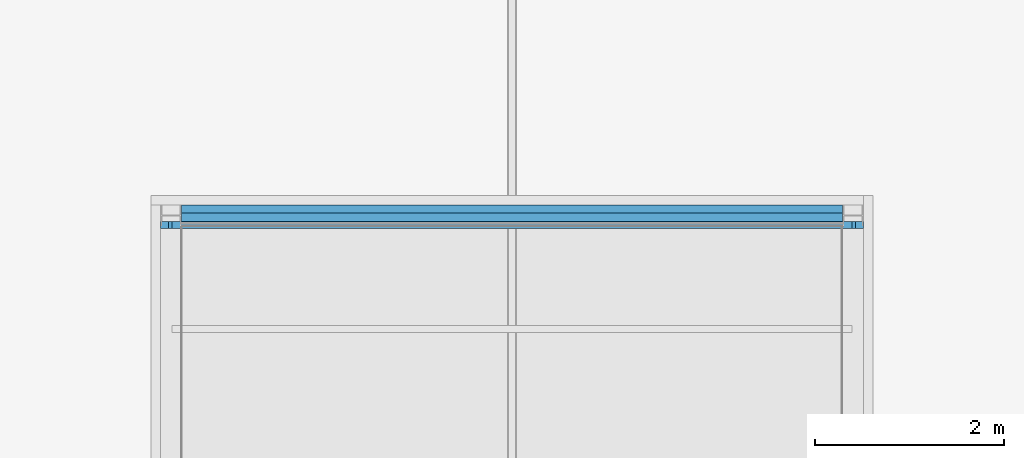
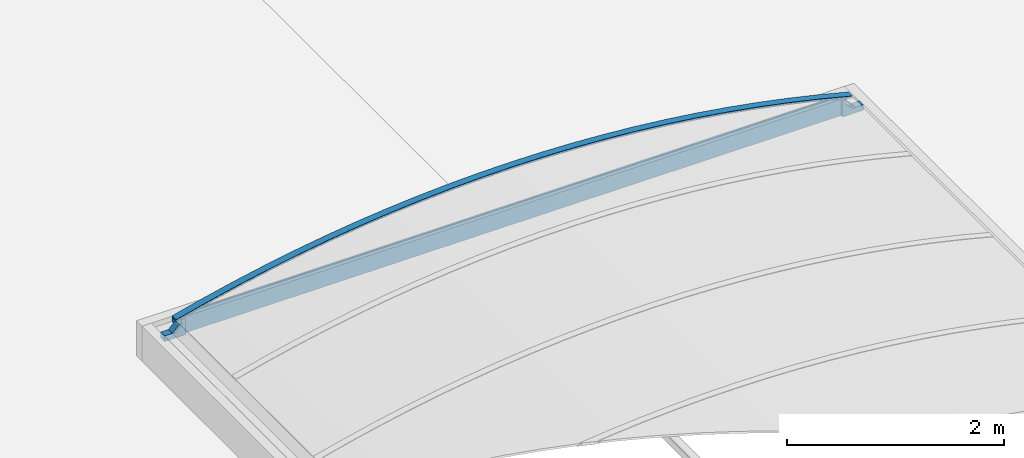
# One storey, part 58 of 81: 2 beams.
"""IFC2X3 building model written with IfcOpenShell, lengths in millimetres."""

from ifc_helpers import new_model, entity, si_unit, converted_unit, derived_unit, money_unit, direction, frame, origin_with_axes, place, context, subcontext, project, spatial, faceted_brep, material, material_list, type_object, element, save


model = new_model("IFC2X3")

# Units and contexts
model_context = context("Model", 3, precision=0.01, world=origin_with_axes(), true_north=direction((0.0, 1.0)))
body_context = subcontext(model_context, "Body", "Model", "MODEL_VIEW")
ifc_project = project(units=[si_unit("LENGTHUNIT", "METRE", prefix="MILLI"), si_unit("AREAUNIT", "SQUARE_METRE"), si_unit("VOLUMEUNIT", "CUBIC_METRE"), converted_unit("PLANEANGLEUNIT", "DEGREE", entity("IfcPlaneAngleMeasure", 0.0174532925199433), si_unit("PLANEANGLEUNIT", "RADIAN"), dimensions=[0, 0, 0, 0, 0, 0, 0]), money_unit("EUR"), converted_unit("TIMEUNIT", "Year", entity("IfcTimeMeasure", 31557600.0), si_unit("TIMEUNIT", "SECOND"), dimensions=[0, 0, 1, 0, 0, 0, 0]), si_unit("MASSUNIT", "GRAM", prefix="KILO"), si_unit("THERMODYNAMICTEMPERATUREUNIT", "DEGREE_CELSIUS"), si_unit("LUMINOUSINTENSITYUNIT", "LUMEN"), si_unit("ENERGYUNIT", "JOULE", prefix="MEGA"), derived_unit("THERMALCONDUCTANCEUNIT", [(si_unit("POWERUNIT", "WATT"), 1), (si_unit("LENGTHUNIT", "METRE"), -1), (si_unit("THERMODYNAMICTEMPERATUREUNIT", "KELVIN"), -1)]), derived_unit("SPECIFICHEATCAPACITYUNIT", [(si_unit("ENERGYUNIT", "JOULE"), 1), (si_unit("MASSUNIT", "GRAM", prefix="KILO"), -1), (si_unit("THERMODYNAMICTEMPERATUREUNIT", "KELVIN"), -1)]), derived_unit("MASSDENSITYUNIT", [(si_unit("MASSUNIT", "GRAM", prefix="KILO"), 1), (si_unit("VOLUMEUNIT", "CUBIC_METRE"), -1)])], contexts=[model_context])

# Site, building, storey
site_placement = place(None, origin_with_axes())
site = spatial("IfcSite", under=ifc_project, at=site_placement, Name="Site", CompositionType="ELEMENT")
building_placement = place(site_placement, origin_with_axes())
building = spatial("IfcBuilding", under=site, at=building_placement, Name="Naam gebouw", CompositionType="ELEMENT")
storey_placement = place(building_placement, frame((0.0, 0.0, 15320.0), z_axis=(0.0, 0.0, 1.0), x_axis=(1.0, 0.0, 0.0)))
storey = spatial("IfcBuildingStorey", under=building, at=storey_placement, Name="01 dak", CompositionType="ELEMENT", Elevation=15320.0)

# Beams
ifc_material_1 = material(Name="Metaal - Aluminium AFW")
ifc_material_2 = material(Name="Hout - Dak")
ifc_material_list_1 = material_list([ifc_material_1, ifc_material_1, ifc_material_1, ifc_material_1, ifc_material_1, ifc_material_1, ifc_material_1, ifc_material_1, ifc_material_2, ifc_material_2, ifc_material_2, ifc_material_2, ifc_material_2, ifc_material_2])
beam_type_1 = type_object("IfcBeamType", Name="lichtstraat polycarbonaat (constructie) 7420 x 670", PredefinedType="BEAM")
beam_1_placement = place(storey_placement, frame((46900.00000000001, 87462.50000000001, 559.9999999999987), z_axis=(0.0, 0.0, 1.0), x_axis=(1.0, 0.0, 0.0)))
element("IfcBeam", 1, at=beam_1_placement, inside=storey, type_object=beam_type_1, material=ifc_material_list_1, Name="lichtstraat", ObjectType="BEAM", context=body_context, shape_type="Brep", body=[
    faceted_brep([(-3710.000000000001, 0.0, 58.00000032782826), (-3710.000000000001, 0.0, 62.99999938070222), (-3710.000000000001, 75.00000000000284, 62.99999938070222), (-3710.000000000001, 75.00000000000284, 58.00000032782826), (-3625.153752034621, 0.0, 58.00000032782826), (-3627.224816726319, 0.0, 62.99999938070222), (-3627.224816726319, 75.00000000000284, 62.99999938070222), (-3625.153752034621, 75.00000000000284, 58.00000032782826)], [[[0, 1, 2, 3]], [[4, 5, 1, 0]], [[1, 5, 6, 2]], [[7, 3, 2, 6]], [[4, 0, 3, 7]], [[5, 4, 7, 6]]]),
    faceted_brep([(-3532.999999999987, 0.0, 192.1385480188), (-3527.999999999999, 0.0, 193.4415530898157), (-3527.999999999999, 75.00000000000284, 193.4415530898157), (-3532.999999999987, 75.00000000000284, 192.1385480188), (-3527.999999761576, 0.0, 155.1537485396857), (-3527.999999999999, 0.0, 184.0000000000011), (-3532.999997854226, 0.0, 157.2248178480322), (-3527.999999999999, 75.00000000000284, 184.0000000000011), (-3532.999997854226, 75.00000000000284, 157.2248178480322), (-3527.999999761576, 75.00000000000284, 155.1537485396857)], [[[0, 1, 2, 3]], [[4, 5, 1, 0, 6]], [[1, 5, 7, 2]], [[8, 3, 2, 7, 9]], [[6, 0, 3, 8]], [[5, 4, 9, 7]], [[4, 6, 8, 9]]]),
    faceted_brep([(-3627.224817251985, 0.0, 62.99999845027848), (-3532.999997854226, 0.0, 157.2248178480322), (-3532.999997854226, 75.00000000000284, 157.2248178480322), (-3627.224817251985, 75.00000000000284, 62.99999845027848), (-3625.153750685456, 0.0, 58.00000035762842), (-3527.999999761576, 0.0, 155.1537485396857), (-3527.999999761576, 75.00000000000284, 155.1537485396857), (-3625.153750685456, 75.00000000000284, 58.00000035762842)], [[[0, 1, 2, 3]], [[4, 5, 1, 0]], [[1, 5, 6, 2]], [[7, 3, 2, 6]], [[4, 0, 3, 7]], [[5, 4, 7, 6]]]),
    faceted_brep([(3625.153749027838, 0.0, 58.00000032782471), (3627.224816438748, 0.0, 62.99999939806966), (3627.224816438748, 75.00000000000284, 62.99999939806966), (3625.153749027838, 75.00000000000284, 58.00000032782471), (3710.000000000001, 0.0, 58.00000032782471), (3710.000000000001, 0.0, 62.99999939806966), (3710.000000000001, 75.00000000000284, 62.99999939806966), (3710.000000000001, 75.00000000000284, 58.00000032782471)], [[[0, 1, 2, 3]], [[4, 5, 1, 0]], [[1, 5, 6, 2]], [[7, 3, 2, 6]], [[4, 0, 3, 7]], [[5, 4, 7, 6]]]),
    faceted_brep([(3528.000000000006, 0.0, 193.4415530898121), (3533.000000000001, 0.0, 192.1385480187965), (3533.000000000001, 75.00000000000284, 192.1385480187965), (3528.000000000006, 75.00000000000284, 193.4415530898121), (3528.000000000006, 0.0, 155.1537497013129), (3533.000000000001, 0.0, 157.2248175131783), (3527.999999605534, 0.0, 184.0000003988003), (3533.000000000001, 75.00000000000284, 157.2248175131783), (3527.999999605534, 75.00000000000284, 184.0000003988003), (3528.000000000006, 75.00000000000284, 155.1537497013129)], [[[0, 1, 2, 3]], [[4, 5, 1, 0, 6]], [[1, 5, 7, 2]], [[8, 3, 2, 7, 9]], [[6, 0, 3, 8]], [[5, 4, 9, 7]], [[4, 6, 8, 9]]]),
    faceted_brep([(3625.153750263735, 0.0, 58.00000048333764), (3527.999999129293, 0.0, 155.1537488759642), (3527.999999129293, 75.00000000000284, 155.1537488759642), (3625.153750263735, 75.00000000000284, 58.00000048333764), (3627.224816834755, 0.0, 62.99999858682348), (3532.999999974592, 0.0, 157.2248181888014), (3532.999999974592, 75.00000000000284, 157.2248181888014), (3627.224816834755, 75.00000000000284, 62.99999858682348)], [[[0, 1, 2, 3]], [[4, 5, 1, 0]], [[1, 5, 6, 2]], [[7, 3, 2, 6]], [[4, 0, 3, 7]], [[5, 4, 7, 6]]]),
    faceted_brep([(-3582.999999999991, 75.00000000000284, 179.000000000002), (-3532.999999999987, 75.00000000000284, 192.1385480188), (-3532.999999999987, 0.0, 192.1385480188), (-3582.999999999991, 0.0, 179.000000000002), (-2896.922437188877, 75.00000000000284, 342.2614189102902), (-3213.322878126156, 75.00000000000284, 271.5053933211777), (-3527.999999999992, 75.00000000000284, 193.4415530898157), (-3584.237010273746, 75.00000000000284, 183.6724462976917), (-3264.746952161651, 75.00000000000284, 264.2761146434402), (-2943.44844329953, 75.00000000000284, 337.3385317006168), (-2620.519461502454, 75.00000000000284, 402.8192257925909), (-2296.138887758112, 75.00000000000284, 460.6819250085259), (-1970.486407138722, 75.00000000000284, 510.8945772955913), (-1643.742409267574, 75.00000000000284, 553.4293682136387), (-1316.087888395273, 75.00000000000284, 588.2627363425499), (-987.7043431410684, 75.00000000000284, 615.375386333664), (-658.7736759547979, 75.00000000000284, 634.7522995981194), (-329.4780923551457, 75.00000000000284, 646.3827426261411), (0.0, 75.00000000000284, 650.2602729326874), (329.4780923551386, 75.00000000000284, 646.3827426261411), (658.7736759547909, 75.00000000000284, 634.7522995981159), (987.7043431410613, 75.00000000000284, 615.3753863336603), (1316.087888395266, 75.00000000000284, 588.2627363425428), (1643.742409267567, 75.00000000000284, 553.4293682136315), (1970.486407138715, 75.00000000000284, 510.8945772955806), (2296.138887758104, 75.00000000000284, 460.6819250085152), (2620.519461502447, 75.00000000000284, 402.8192257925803), (2943.448443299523, 75.00000000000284, 337.3385317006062), (3264.746952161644, 75.00000000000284, 264.2761146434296), (3584.237010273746, 75.00000000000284, 183.6724462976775), (3582.999999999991, 75.00000000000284, 179.000000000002), (3533.000000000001, 75.00000000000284, 192.1385480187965), (3533.000000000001, 75.00000000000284, 194.0000000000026), (3528.000000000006, 75.00000000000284, 194.0000000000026), (3528.000000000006, 75.00000000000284, 193.4415530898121), (3213.322878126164, 75.00000000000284, 271.5053933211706), (2896.922437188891, 75.00000000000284, 342.2614189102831), (2578.968364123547, 75.00000000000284, 405.6716830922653), (2259.63117908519, 75.00000000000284, 461.7021786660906), (1939.082143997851, 75.00000000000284, 510.3228562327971), (1617.49317070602, 75.00000000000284, 551.5076403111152), (1295.036728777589, 75.00000000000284, 585.2344433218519), (971.8857530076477, 75.00000000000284, 611.4851774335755), (648.2135506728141, 75.00000000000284, 630.2457642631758), (324.1937085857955, 75.00000000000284, 641.5061424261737), (0.0, 75.00000000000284, 645.2602729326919), (-324.1937085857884, 75.00000000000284, 641.5061424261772), (-648.2135506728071, 75.00000000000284, 630.2457642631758), (-971.8857530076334, 75.00000000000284, 611.485177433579), (-1295.036728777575, 75.00000000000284, 585.2344433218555), (-1617.493170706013, 75.00000000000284, 551.5076403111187), (-1939.082143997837, 75.00000000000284, 510.3228562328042), (-2259.631179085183, 75.00000000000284, 461.7021786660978), (-2578.968364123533, 75.00000000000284, 405.6716830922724), (-3527.999999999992, 0.0, 193.4415530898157), (-2620.519461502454, 0.0, 402.8192257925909), (-2943.44844329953, 0.0, 337.3385317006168), (-3264.746952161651, 0.0, 264.2761146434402), (-3584.237010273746, 0.0, 183.6724462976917), (-3213.322878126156, 0.0, 271.5053933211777), (-2896.922437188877, 0.0, 342.2614189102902), (-2578.968364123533, 0.0, 405.6716830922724), (-2259.631179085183, 0.0, 461.7021786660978), (-1939.082143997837, 0.0, 510.3228562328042), (-1617.493170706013, 0.0, 551.5076403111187), (-1295.036728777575, 0.0, 585.2344433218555), (-971.8857530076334, 0.0, 611.485177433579), (-648.2135506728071, 0.0, 630.2457642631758), (-324.1937085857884, 0.0, 641.5061424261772), (0.0, 0.0, 645.2602729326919), (324.1937085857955, 0.0, 641.5061424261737), (648.2135506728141, 0.0, 630.2457642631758), (971.8857530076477, 0.0, 611.4851774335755), (1295.036728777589, 0.0, 585.2344433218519), (1617.49317070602, 0.0, 551.5076403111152), (1939.082143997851, 0.0, 510.3228562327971), (2259.63117908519, 0.0, 461.7021786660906), (2578.968364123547, 0.0, 405.6716830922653), (2896.922437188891, 0.0, 342.2614189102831), (3213.322878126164, 0.0, 271.5053933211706), (3528.000000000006, 0.0, 193.4415530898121), (3528.000000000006, 0.0, 194.0000000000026), (3533.000000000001, 0.0, 194.0000000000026), (3533.000000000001, 0.0, 192.1385480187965), (3582.999999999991, 0.0, 179.000000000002), (3584.237010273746, 0.0, 183.6724462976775), (3264.746952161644, 0.0, 264.2761146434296), (2943.448443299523, 0.0, 337.3385317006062), (2620.519461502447, 0.0, 402.8192257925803), (2296.138887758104, 0.0, 460.6819250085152), (1970.486407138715, 0.0, 510.8945772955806), (1643.742409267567, 0.0, 553.4293682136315), (1316.087888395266, 0.0, 588.2627363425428), (987.7043431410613, 0.0, 615.3753863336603), (658.7736759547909, 0.0, 634.7522995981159), (329.4780923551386, 0.0, 646.3827426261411), (0.0, 0.0, 650.2602729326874), (-329.4780923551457, 0.0, 646.3827426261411), (-658.7736759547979, 0.0, 634.7522995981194), (-987.7043431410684, 0.0, 615.375386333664), (-1316.087888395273, 0.0, 588.2627363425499), (-1643.742409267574, 0.0, 553.4293682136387), (-1970.486407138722, 0.0, 510.8945772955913), (-2296.138887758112, 0.0, 460.6819250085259)], [[[0, 1, 2, 3]], [[4, 5, 6, 1, 0, 7, 8, 9, 10, 11, 12, 13, 14, 15, 16, 17, 18, 19, 20, 21, 22, 23, 24, 25, 26, 27, 28, 29, 30, 31, 32, 33, 34, 35, 36, 37, 38, 39, 40, 41, 42, 43, 44, 45, 46, 47, 48, 49, 50, 51, 52, 53]], [[1, 6, 54, 2]], [[55, 56, 57, 58, 3, 2, 54, 59, 60, 61, 62, 63, 64, 65, 66, 67, 68, 69, 70, 71, 72, 73, 74, 75, 76, 77, 78, 79, 80, 81, 82, 83, 84, 85, 86, 87, 88, 89, 90, 91, 92, 93, 94, 95, 96, 97, 98, 99, 100, 101, 102, 103]], [[7, 0, 3, 58]], [[5, 4, 60, 59]], [[6, 5, 59, 54]], [[8, 7, 58, 57]], [[9, 8, 57, 56]], [[10, 9, 56, 55]], [[11, 10, 55, 103]], [[12, 11, 103, 102]], [[13, 12, 102, 101]], [[14, 13, 101, 100]], [[15, 14, 100, 99]], [[16, 15, 99, 98]], [[17, 16, 98, 97]], [[18, 17, 97, 96]], [[19, 18, 96, 95]], [[20, 19, 95, 94]], [[21, 20, 94, 93]], [[22, 21, 93, 92]], [[23, 22, 92, 91]], [[24, 23, 91, 90]], [[25, 24, 90, 89]], [[26, 25, 89, 88]], [[27, 26, 88, 87]], [[28, 27, 87, 86]], [[29, 28, 86, 85]], [[30, 29, 85, 84]], [[31, 30, 84, 83]], [[32, 31, 83, 82]], [[33, 32, 82, 81]], [[34, 33, 81, 80]], [[35, 34, 80, 79]], [[36, 35, 79, 78]], [[37, 36, 78, 77]], [[38, 37, 77, 76]], [[39, 38, 76, 75]], [[40, 39, 75, 74]], [[41, 40, 74, 73]], [[42, 41, 73, 72]], [[43, 42, 72, 71]], [[44, 43, 71, 70]], [[45, 44, 70, 69]], [[46, 45, 69, 68]], [[47, 46, 68, 67]], [[48, 47, 67, 66]], [[49, 48, 66, 65]], [[50, 49, 65, 64]], [[51, 50, 64, 63]], [[52, 51, 63, 62]], [[53, 52, 62, 61]], [[4, 53, 61, 60]]]),
    faceted_brep([(3269.271727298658, 75.00000000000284, 283.190243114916), (2947.542627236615, 75.00000000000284, 356.4574241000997), (2947.542627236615, 0.0, 356.4574241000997), (3269.271727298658, 0.0, 283.190243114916), (3589.18475202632, 75.00000000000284, 202.3611008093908), (3587.947861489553, 75.00000000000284, 197.6891067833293), (3528.000000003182, 75.00000000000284, 213.4415530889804), (3213.322878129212, 75.00000000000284, 291.505393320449), (2896.922437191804, 75.00000000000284, 362.2614189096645), (2578.968364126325, 75.00000000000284, 425.6716830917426), (2259.631179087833, 75.00000000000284, 481.7021786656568), (1939.082144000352, 75.00000000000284, 530.3228562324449), (1617.493170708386, 75.00000000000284, 571.5076403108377), (1295.036728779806, 75.00000000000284, 605.2344433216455), (971.8857530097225, 75.00000000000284, 631.4851774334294), (648.2135506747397, 75.00000000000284, 650.2457642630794), (324.1937085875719, 75.00000000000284, 661.5061424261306), (1.63424829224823e-09, 75.00000000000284, 665.2602729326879), (-324.1937085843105, 75.00000000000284, 661.5061424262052), (-648.2135506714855, 75.00000000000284, 650.2457642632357), (-971.8857530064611, 75.00000000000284, 631.4851774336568), (-1295.036728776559, 75.00000000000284, 605.2344433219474), (-1617.493170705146, 75.00000000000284, 571.5076403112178), (-1939.082143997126, 75.00000000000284, 530.3228562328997), (-2259.631179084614, 75.00000000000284, 481.7021786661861), (-2578.968364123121, 75.00000000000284, 425.6716830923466), (-2896.922437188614, 75.00000000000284, 362.2614189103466), (-3213.322878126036, 75.00000000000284, 291.5053933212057), (-3528.00000000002, 75.00000000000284, 213.4415530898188), (-3533.000000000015, 75.00000000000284, 212.1385480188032), (-3587.947861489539, 75.00000000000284, 197.6891067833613), (-3589.184752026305, 75.00000000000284, 202.3611008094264), (-3269.271727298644, 75.00000000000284, 283.1902431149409), (-2947.542627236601, 75.00000000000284, 356.4574241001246), (-2624.176171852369, 75.00000000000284, 422.1219439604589), (-2299.351990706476, 75.00000000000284, 480.1473261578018), (-1973.250523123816, 75.00000000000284, 530.5013376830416), (-1646.052917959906, 75.00000000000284, 573.156006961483), (-1317.940932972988, 75.00000000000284, 608.0876393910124), (-989.0968338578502, 75.00000000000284, 635.2768305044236), (-659.7032929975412, 75.00000000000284, 654.7084767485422), (-329.9432879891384, 75.00000000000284, 666.3717838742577), (0.0, 75.00000000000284, 670.2602729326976), (329.9432879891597, 75.00000000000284, 666.3717838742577), (659.7032929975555, 75.00000000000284, 654.7084767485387), (989.0968338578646, 75.00000000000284, 635.2768305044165), (1317.940932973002, 75.00000000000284, 608.0876393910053), (1646.052917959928, 75.00000000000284, 573.1560069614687), (1973.250523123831, 75.00000000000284, 530.5013376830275), (2299.351990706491, 75.00000000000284, 480.147326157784), (2624.176171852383, 75.00000000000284, 422.1219439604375), (2624.176171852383, 0.0, 422.1219439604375), (2299.351990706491, 0.0, 480.147326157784), (1973.250523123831, 0.0, 530.5013376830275), (1646.052917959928, 0.0, 573.1560069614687), (1317.940932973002, 0.0, 608.0876393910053), (989.0968338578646, 0.0, 635.2768305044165), (659.7032929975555, 0.0, 654.7084767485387), (329.9432879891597, 0.0, 666.3717838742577), (0.0, 0.0, 670.2602729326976), (-329.9432879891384, 0.0, 666.3717838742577), (-659.7032929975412, 0.0, 654.7084767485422), (-989.0968338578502, 0.0, 635.2768305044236), (-1317.940932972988, 0.0, 608.0876393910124), (-1646.052917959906, 0.0, 573.156006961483), (-1973.250523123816, 0.0, 530.5013376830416), (-2299.351990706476, 0.0, 480.1473261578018), (-2624.176171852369, 0.0, 422.1219439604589), (-2947.542627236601, 0.0, 356.4574241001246), (-3269.271727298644, 0.0, 283.1902431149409), (-3589.184752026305, 0.0, 202.3611008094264), (-3587.947861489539, 0.0, 197.6891067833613), (-3533.000000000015, 0.0, 212.1385480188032), (-3528.00000000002, 0.0, 213.4415530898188), (-3213.322878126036, 0.0, 291.5053933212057), (-2896.922437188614, 0.0, 362.2614189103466), (-2578.968364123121, 0.0, 425.6716830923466), (-2259.631179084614, 0.0, 481.7021786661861), (-1939.082143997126, 0.0, 530.3228562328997), (-1617.493170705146, 0.0, 571.5076403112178), (-1295.036728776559, 0.0, 605.2344433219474), (-971.8857530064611, 0.0, 631.4851774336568), (-648.2135506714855, 0.0, 650.2457642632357), (-324.1937085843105, 0.0, 661.5061424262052), (1.63424829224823e-09, 0.0, 665.2602729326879), (324.1937085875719, 0.0, 661.5061424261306), (648.2135506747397, 0.0, 650.2457642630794), (971.8857530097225, 0.0, 631.4851774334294), (1295.036728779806, 0.0, 605.2344433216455), (1617.493170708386, 0.0, 571.5076403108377), (1939.082144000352, 0.0, 530.3228562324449), (2259.631179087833, 0.0, 481.7021786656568), (2578.968364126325, 0.0, 425.6716830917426), (2896.922437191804, 0.0, 362.2614189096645), (3213.322878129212, 0.0, 291.505393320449), (3528.000000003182, 0.0, 213.4415530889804), (3587.947861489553, 0.0, 197.6891067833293), (3589.18475202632, 0.0, 202.3611008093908)], [[[0, 1, 2, 3]], [[0, 4, 5, 6, 7, 8, 9, 10, 11, 12, 13, 14, 15, 16, 17, 18, 19, 20, 21, 22, 23, 24, 25, 26, 27, 28, 29, 30, 31, 32, 33, 34, 35, 36, 37, 38, 39, 40, 41, 42, 43, 44, 45, 46, 47, 48, 49, 50, 1]], [[1, 50, 51, 2]], [[3, 2, 51, 52, 53, 54, 55, 56, 57, 58, 59, 60, 61, 62, 63, 64, 65, 66, 67, 68, 69, 70, 71, 72, 73, 74, 75, 76, 77, 78, 79, 80, 81, 82, 83, 84, 85, 86, 87, 88, 89, 90, 91, 92, 93, 94, 95, 96, 97]], [[4, 0, 3, 97]], [[5, 4, 97, 96]], [[6, 5, 96, 95]], [[7, 6, 95, 94]], [[8, 7, 94, 93]], [[9, 8, 93, 92]], [[10, 9, 92, 91]], [[11, 10, 91, 90]], [[12, 11, 90, 89]], [[13, 12, 89, 88]], [[14, 13, 88, 87]], [[15, 14, 87, 86]], [[16, 15, 86, 85]], [[17, 16, 85, 84]], [[18, 17, 84, 83]], [[19, 18, 83, 82]], [[20, 19, 82, 81]], [[21, 20, 81, 80]], [[22, 21, 80, 79]], [[23, 22, 79, 78]], [[24, 23, 78, 77]], [[25, 24, 77, 76]], [[26, 25, 76, 75]], [[27, 26, 75, 74]], [[28, 27, 74, 73]], [[29, 28, 73, 72]], [[30, 29, 72, 71]], [[31, 30, 71, 70]], [[32, 31, 70, 69]], [[33, 32, 69, 68]], [[34, 33, 68, 67]], [[35, 34, 67, 66]], [[36, 35, 66, 65]], [[37, 36, 65, 64]], [[38, 37, 64, 63]], [[39, 38, 63, 62]], [[40, 39, 62, 61]], [[41, 40, 61, 60]], [[42, 41, 60, 59]], [[43, 42, 59, 58]], [[44, 43, 58, 57]], [[45, 44, 57, 56]], [[46, 45, 56, 55]], [[47, 46, 55, 54]], [[48, 47, 54, 53]], [[49, 48, 53, 52]], [[50, 49, 52, 51]]]),
    faceted_brep([(-3527.999999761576, 0.0, 155.1537485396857), (-3527.999999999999, 0.0, 184.0000000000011), (-3527.999999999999, 75.00000000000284, 184.0000000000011), (-3527.999999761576, 75.00000000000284, 155.1537485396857), (-3489.999999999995, 0.0, 0.0), (-3489.999999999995, 0.0, 184.0000000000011), (-3527.999999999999, 0.0, 128.0000000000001), (-3527.999999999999, 0.0, 0.0), (-3489.999999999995, 75.00000000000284, 184.0000000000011), (-3527.999999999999, 75.00000000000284, 128.0000000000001), (-3489.999999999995, 75.00000000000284, 0.0), (-3527.999999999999, 75.00000000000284, 0.0)], [[[0, 1, 2, 3]], [[4, 5, 1, 0, 6, 7]], [[1, 5, 8, 2]], [[9, 3, 2, 8, 10, 11]], [[6, 0, 3, 9]], [[5, 4, 10, 8]], [[7, 6, 9, 11]], [[4, 7, 11, 10]]]),
    faceted_brep([(-3625.153752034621, 0.0, 58.00000032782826), (-3625.153752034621, 75.00000000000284, 58.00000032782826), (-3710.000000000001, 75.00000000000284, 58.00000032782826), (-3710.000000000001, 0.0, 58.00000032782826), (-3598.000000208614, 0.0, 58.00000032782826), (-3598.000000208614, 75.00000000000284, 58.00000032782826), (-3527.999999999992, 75.00000000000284, 58.00000032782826), (-3527.999999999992, 75.00000000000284, 0.0), (-3710.000000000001, 75.00000000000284, 0.0), (-3710.000000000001, 0.0, 0.0), (-3527.999999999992, 0.0, 0.0), (-3527.999999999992, 0.0, 58.00000032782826)], [[[0, 1, 2, 3]], [[4, 5, 1, 0]], [[2, 1, 5, 6, 7, 8]], [[3, 2, 8, 9]], [[4, 0, 3, 9, 10, 11]], [[11, 6, 5, 4]], [[10, 7, 6, 11]], [[9, 8, 7, 10]]]),
    faceted_brep([(-3527.999999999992, 0.0, 128.0000000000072), (-3527.999999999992, 75.00000000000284, 128.0000000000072), (-3597.999999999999, 75.00000000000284, 57.99999999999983), (-3597.999999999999, 0.0, 57.99999999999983), (-3527.999999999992, 0.0, 57.99999999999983), (-3527.999999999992, 75.00000000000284, 57.99999999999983)], [[[0, 1, 2, 3]], [[4, 5, 1, 0]], [[2, 1, 5]], [[3, 2, 5, 4]], [[4, 0, 3]]]),
    faceted_brep([(3489.999999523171, 0.0, 0.0), (3489.999999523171, 0.0, 184.0000003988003), (3489.999999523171, 75.00000000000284, 184.0000003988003), (3489.999999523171, 75.00000000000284, 0.0), (3528.000000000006, 0.0, 155.1537497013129), (3527.999999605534, 0.0, 184.0000003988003), (3527.999999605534, 0.0, 0.0), (3527.999999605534, 0.0, 128.000000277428), (3527.999999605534, 75.00000000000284, 184.0000003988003), (3527.999999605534, 75.00000000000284, 0.0), (3528.000000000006, 75.00000000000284, 155.1537497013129), (3527.999999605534, 75.00000000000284, 128.000000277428)], [[[0, 1, 2, 3]], [[4, 5, 1, 0, 6, 7]], [[1, 5, 8, 2]], [[9, 3, 2, 8, 10, 11]], [[6, 0, 3, 9]], [[5, 4, 10, 8]], [[7, 6, 9, 11]], [[4, 7, 11, 10]]]),
    faceted_brep([(3528.000000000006, 0.0, 58.00000032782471), (3528.000000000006, 75.00000000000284, 58.00000032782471), (3528.000000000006, 75.00000000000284, 0.0), (3528.000000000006, 0.0, 0.0), (3598.000000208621, 0.0, 58.00000032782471), (3598.000000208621, 75.00000000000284, 58.00000032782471), (3625.153749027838, 75.00000000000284, 58.00000032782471), (3710.000000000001, 75.00000000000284, 58.00000032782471), (3710.000000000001, 75.00000000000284, 0.0), (3710.000000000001, 0.0, 0.0), (3710.000000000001, 0.0, 58.00000032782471), (3625.153749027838, 0.0, 58.00000032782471)], [[[0, 1, 2, 3]], [[4, 5, 1, 0]], [[2, 1, 5, 6, 7, 8]], [[3, 2, 8, 9]], [[4, 0, 3, 9, 10, 11]], [[11, 6, 5, 4]], [[10, 7, 6, 11]], [[9, 8, 7, 10]]]),
    faceted_brep([(3598.000000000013, 0.0, 57.99999999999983), (3598.000000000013, 75.00000000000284, 57.99999999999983), (3528.000000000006, 75.00000000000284, 128.0000000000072), (3528.000000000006, 0.0, 128.0000000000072), (3528.000000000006, 0.0, 57.99999999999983), (3528.000000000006, 75.00000000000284, 57.99999999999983)], [[[0, 1, 2, 3]], [[4, 5, 1, 0]], [[2, 1, 5]], [[3, 2, 5, 4]], [[4, 0, 3]]]),
])
ifc_material_list_2 = material_list([ifc_material_1, ifc_material_1, ifc_material_1, ifc_material_2, ifc_material_2, ifc_material_2])
beam_type_2 = type_object("IfcBeamType", Name="lichtstraat polycarbonaat (constructie-kopzijde) 220 x 193", PredefinedType="BEAM")
beam_2_placement = place(storey_placement, frame((43410.00000000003, 87490.00000000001, 560.0000000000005), z_axis=(0.0, 0.0, 1.0), x_axis=(0.0, -1.0, 0.0)))
element("IfcBeam", 2, at=beam_2_placement, inside=storey, type_object=beam_type_2, material=ifc_material_list_2, Name="Plafondafwerking 3", ObjectType="BEAM", context=body_context, shape_type="Brep", body=[
    faceted_brep([(-219.9999999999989, 6979.999999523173, 62.99999939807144), (-219.9999999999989, 6979.999999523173, 58.00000032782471), (-219.9999999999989, 0.0, 58.00000032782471), (-219.9999999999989, 0.0, 62.99999939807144), (-137.2248164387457, 6979.999999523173, 62.99999939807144), (-135.1537490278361, 6979.999999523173, 58.00000032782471), (-135.1537490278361, 0.0, 58.00000032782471), (-137.2248164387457, 0.0, 62.99999939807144)], [[[0, 1, 2, 3]], [[0, 4, 5, 1]], [[1, 5, 6, 2]], [[3, 2, 6, 7]], [[4, 0, 3, 7]], [[5, 4, 7, 6]]]),
    faceted_brep([(-42.99999999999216, 0.0, 157.2248175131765), (-42.99999999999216, 6979.999999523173, 157.2248175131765), (-37.9999999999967, 6979.999999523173, 155.1537497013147), (-37.9999999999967, 0.0, 155.1537497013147), (-42.99999999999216, 0.0, 192.1385480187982), (-42.99999999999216, 6979.999999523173, 192.1385480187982), (-37.9999999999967, 6979.999999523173, 193.4415530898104), (-37.9999996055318, 6979.999999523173, 184.0000003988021), (-37.9999996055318, 0.0, 184.0000003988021), (-37.9999999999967, 0.0, 193.4415530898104)], [[[0, 1, 2, 3]], [[4, 5, 1, 0]], [[2, 1, 5, 6, 7]], [[3, 2, 7, 8]], [[4, 0, 3, 8, 9]], [[9, 6, 5, 4]], [[8, 7, 6, 9]]]),
    faceted_brep([(-42.99999997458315, 0.0, 157.2248181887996), (-42.99999997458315, 6979.999999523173, 157.2248181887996), (-137.2248168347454, 6979.999999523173, 62.99999858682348), (-137.2248168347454, 0.0, 62.99999858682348), (-37.99999912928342, 0.0, 155.153748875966), (-37.99999912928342, 6979.999999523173, 155.153748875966), (-135.1537502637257, 6979.999999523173, 58.00000048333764), (-135.1537502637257, 0.0, 58.00000048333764)], [[[0, 1, 2, 3]], [[4, 5, 1, 0]], [[2, 1, 5, 6]], [[3, 2, 6, 7]], [[4, 0, 3, 7]], [[7, 6, 5, 4]]]),
    faceted_brep([(-37.9999996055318, 6979.999999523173, 184.0000003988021), (-37.9999999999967, 6979.999999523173, 155.1537497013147), (-37.9999999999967, 0.0, 155.1537497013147), (-37.9999996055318, 0.0, 184.0000003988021), (4.76831019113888e-07, 6979.999999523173, 184.0000003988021), (4.76831019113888e-07, 6979.999999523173, 0.0), (-37.9999996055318, 6979.999999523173, 0.0), (-37.9999996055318, 6979.999999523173, 128.0000002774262), (-37.9999996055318, 0.0, 128.0000002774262), (-37.9999996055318, 0.0, 0.0), (4.76831019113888e-07, 0.0, 0.0), (4.76831019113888e-07, 0.0, 184.0000003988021)], [[[0, 1, 2, 3]], [[0, 4, 5, 6, 7, 1]], [[1, 7, 8, 2]], [[3, 2, 8, 9, 10, 11]], [[4, 0, 3, 11]], [[5, 4, 11, 10]], [[6, 5, 10, 9]], [[7, 6, 9, 8]]]),
    faceted_brep([(-108.0000002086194, 6979.999999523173, 58.00000032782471), (-135.1537490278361, 6979.999999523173, 58.00000032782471), (-135.1537490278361, 0.0, 58.00000032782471), (-108.0000002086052, 0.0, 58.00000032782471), (-37.9999999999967, 6979.999999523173, 58.00000032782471), (-37.9999999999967, 6979.999999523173, 0.0), (-219.9999999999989, 6979.999999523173, 0.0), (-219.9999999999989, 6979.999999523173, 58.00000032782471), (-219.9999999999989, 0.0, 58.00000032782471), (-219.9999999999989, 0.0, 0.0), (-37.9999999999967, 0.0, 0.0), (-37.9999999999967, 0.0, 58.00000032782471)], [[[0, 1, 2, 3]], [[0, 4, 5, 6, 7, 1]], [[1, 7, 8, 2]], [[3, 2, 8, 9, 10, 11]], [[4, 0, 3, 11]], [[5, 4, 11, 10]], [[6, 5, 10, 9]], [[7, 6, 9, 8]]]),
    faceted_brep([(-37.9999999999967, 6979.999999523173, 57.99999999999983), (-37.9999999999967, 6979.999999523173, 128.000000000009), (-37.9999999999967, 0.0, 128.000000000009), (-37.9999999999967, 0.0, 57.99999999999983), (-108.0000000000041, 6979.999999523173, 57.99999999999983), (-108.0000000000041, 0.0, 57.99999999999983)], [[[0, 1, 2, 3]], [[0, 4, 1]], [[1, 4, 5, 2]], [[3, 2, 5]], [[4, 0, 3, 5]]]),
])

save(model, "model.ifc")
